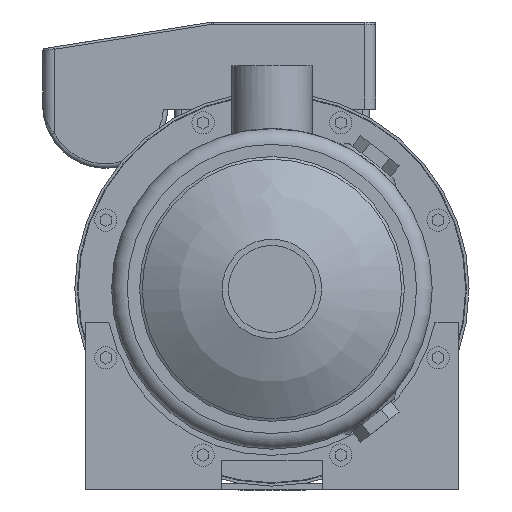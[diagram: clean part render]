
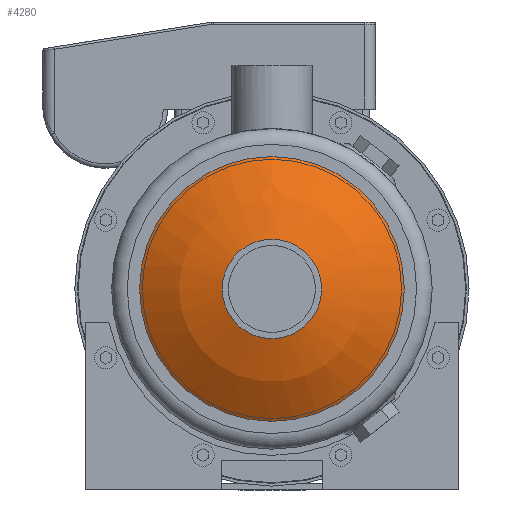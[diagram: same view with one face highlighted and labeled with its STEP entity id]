
A CAD part, left-side view. The second image highlights one B-rep face of the part: STEP entity #4280.
In plain terms, the highlighted spherical face has radius 100 mm.
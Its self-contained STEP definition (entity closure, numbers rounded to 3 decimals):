
#59=SPHERICAL_SURFACE('',#5681,100.);
#969=ORIENTED_EDGE('',*,*,#2140,.T.);
#970=ORIENTED_EDGE('',*,*,#2139,.F.);
#2139=EDGE_CURVE('',#2729,#2729,#3131,.T.);
#2140=EDGE_CURVE('',#2730,#2730,#3132,.T.);
#2729=VERTEX_POINT('',#7606);
#2730=VERTEX_POINT('',#7609);
#3131=CIRCLE('',#5680,22.25);
#3132=CIRCLE('',#5682,59.25);
#3336=EDGE_LOOP('',(#969));
#3337=EDGE_LOOP('',(#970));
#3731=FACE_BOUND('',#3336,.T.);
#3732=FACE_BOUND('',#3337,.T.);
#4280=ADVANCED_FACE('',(#3731,#3732),#59,.T.);
#5680=AXIS2_PLACEMENT_3D('',#7605,#6209,#6210);
#5681=AXIS2_PLACEMENT_3D('',#7607,#6211,#6212);
#5682=AXIS2_PLACEMENT_3D('',#7608,#6213,#6214);
#6209=DIRECTION('',(-1.,0.,0.));
#6210=DIRECTION('',(0.,0.,1.));
#6211=DIRECTION('',(-1.,0.,0.));
#6212=DIRECTION('',(0.,0.,1.));
#6213=DIRECTION('',(-1.,0.,0.));
#6214=DIRECTION('',(0.,0.,1.));
#7605=CARTESIAN_POINT('',(-67.293,0.,0.));
#7606=CARTESIAN_POINT('',(-67.293,0.,22.25));
#7607=CARTESIAN_POINT('',(30.2,0.,0.));
#7608=CARTESIAN_POINT('',(-50.357,0.,0.));
#7609=CARTESIAN_POINT('',(-50.357,0.,59.25));
